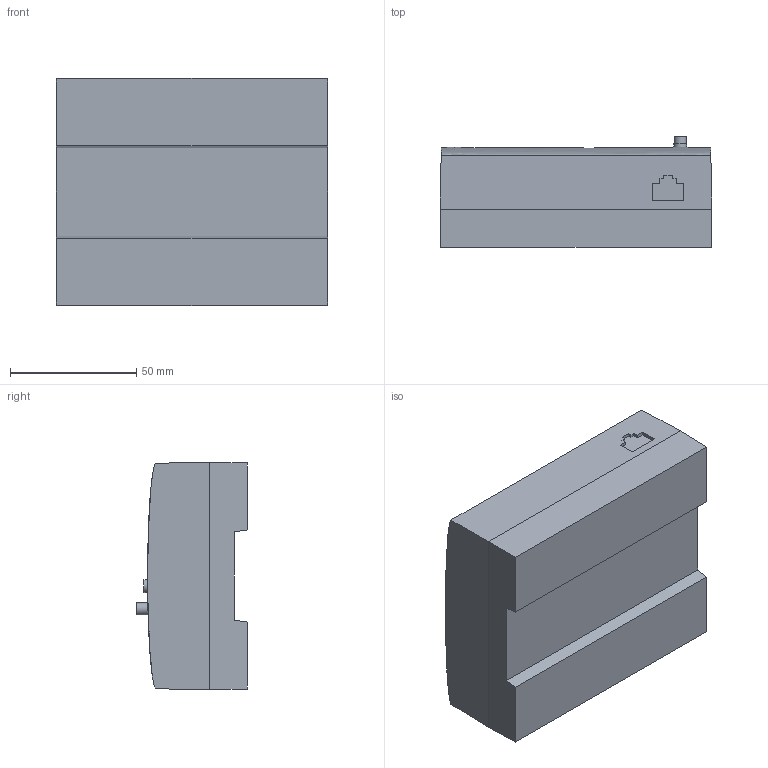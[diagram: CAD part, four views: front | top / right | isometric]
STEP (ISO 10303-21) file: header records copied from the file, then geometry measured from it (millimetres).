
FILE_DESCRIPTION(/* description */ ('STEP AP242','CAx-IF Rec.Pracs.---Representation and Presentation of Product Manufacturing Information (PMI)---4.0---2014-10-13','CAx-IF Rec.Pracs.---3D Tessellated Geometry---0.4---2014-09-14','2;1'),/* implementation_level */ '2;1');
FILE_NAME(/* name */ '6634dd337859092b1b9c2942',/* time_stamp */ '2024-05-03T12:48:52Z',/* author */ (''),/* organization */ (''),/* preprocessor_version */ 'ST-DEVELOPER v20',/* originating_system */ ' ',/* authorisation */ ' ');
FILE_SCHEMA (('AP242_MANAGED_MODEL_BASED_3D_ENGINEERING_MIM_LF { 1 0 10303 442 1 1 4 }'));
Length unit declared in the file: metre
Products named in the file (1): XPC
Bounding box: 107.5 x 43.84 x 90 mm (x, y, z)
Volume: 351273.7 mm3; surface area: 34962.9 mm2
Topology: 1 solids, 1 shells, 67 faces, 152 edges, 98 vertices
Faces by surface type: plane 48, cylinder 10, bspline 9
Full cylindrical faces by diameter (mm): 2.3 x8, 4.8 x1, 5.1 x1
Entity records: 2032 total; most frequent: CARTESIAN_POINT 621, ORIENTED_EDGE 280, DIRECTION 240, EDGE_CURVE 140, LINE 118, VECTOR 118, VERTEX_POINT 96, EDGE_LOOP 88
